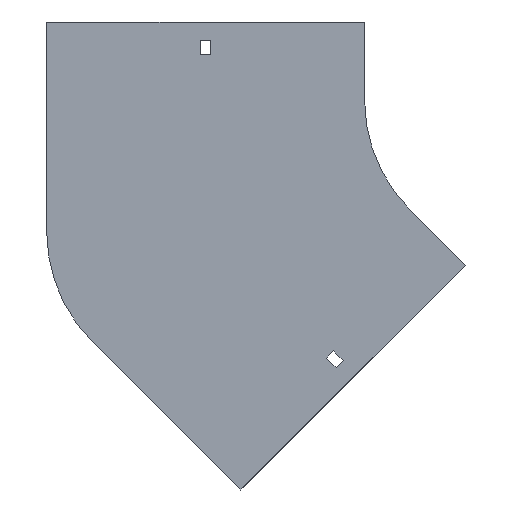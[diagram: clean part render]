
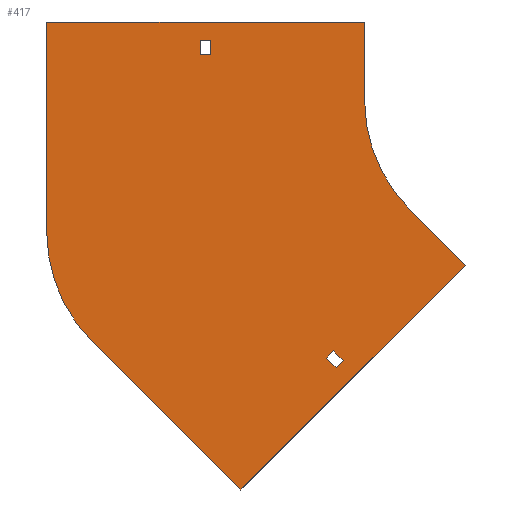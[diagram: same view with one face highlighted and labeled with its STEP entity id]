
A CAD part, front view. The second image highlights one B-rep face of the part: STEP entity #417.
In plain terms, the highlighted planar face has unit normal (0, -1, 0).
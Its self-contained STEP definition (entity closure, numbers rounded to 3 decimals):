
#1 = ORIENTED_EDGE ( 'NONE', *, *, #617, .F. ) ;
#26 = DIRECTION ( 'NONE',  ( 0., -1., 0. ) ) ;
#27 = DIRECTION ( 'NONE',  ( 1., 0., 0. ) ) ;
#33 = CIRCLE ( 'NONE', #501, 100. ) ;
#37 = EDGE_CURVE ( 'NONE', #536, #1381, #1002, .T. ) ;
#60 = DIRECTION ( 'NONE',  ( 0.707, 0., 0.707 ) ) ;
#84 = CARTESIAN_POINT ( 'NONE',  ( -304., 0., 50. ) ) ;
#117 = EDGE_CURVE ( 'NONE', #887, #536, #1345, .T. ) ;
#118 = EDGE_CURVE ( 'NONE', #267, #1157, #481, .T. ) ;
#130 = CARTESIAN_POINT ( 'NONE',  ( -179.605, 0., -250.316 ) ) ;
#143 = LINE ( 'NONE', #1032, #849 ) ;
#152 = ORIENTED_EDGE ( 'NONE', *, *, #631, .F. ) ;
#153 = CARTESIAN_POINT ( 'NONE',  ( -204., 0., -84.5 ) ) ;
#157 = EDGE_CURVE ( 'NONE', #956, #887, #1020, .T. ) ;
#160 = LINE ( 'NONE', #792, #272 ) ;
#186 = EDGE_CURVE ( 'NONE', #1157, #1109, #1230, .T. ) ;
#189 = CARTESIAN_POINT ( 'NONE',  ( -304., 0., -84.5 ) ) ;
#201 = ORIENTED_EDGE ( 'NONE', *, *, #1172, .F. ) ;
#204 = EDGE_CURVE ( 'NONE', #801, #1326, #592, .T. ) ;
#222 = VECTOR ( 'NONE', #823, 1000. ) ;
#231 = ORIENTED_EDGE ( 'NONE', *, *, #117, .T. ) ;
#237 = DIRECTION ( 'NONE',  ( 0.707, 0., -0.707 ) ) ;
#248 = VERTEX_POINT ( 'NONE', #1217 ) ;
#250 = CARTESIAN_POINT ( 'NONE',  ( 0., 0., 0. ) ) ;
#266 = EDGE_CURVE ( 'NONE', #717, #267, #1305, .T. ) ;
#267 = VERTEX_POINT ( 'NONE', #639 ) ;
#272 = VECTOR ( 'NONE', #1232, 1000. ) ;
#315 = VECTOR ( 'NONE', #237, 1000. ) ;
#339 = CARTESIAN_POINT ( 'NONE',  ( -304., 0., -84.5 ) ) ;
#358 = CARTESIAN_POINT ( 'NONE',  ( -205.25, 0., 38. ) ) ;
#364 = LINE ( 'NONE', #928, #571 ) ;
#393 = EDGE_CURVE ( 'NONE', #1109, #1114, #403, .T. ) ;
#403 = LINE ( 'NONE', #746, #315 ) ;
#405 = CARTESIAN_POINT ( 'NONE',  ( -113.667, 0., -167.408 ) ) ;
#417 = ADVANCED_FACE ( 'NONE', ( #439, #765, #996 ), #1108, .T. ) ;
#430 = CARTESIAN_POINT ( 'NONE',  ( -120.031, 0., -161.044 ) ) ;
#434 = CARTESIAN_POINT ( 'NONE',  ( 0., 0., 0. ) ) ;
#439 = FACE_BOUND ( 'NONE', #1046, .T. ) ;
#451 = VECTOR ( 'NONE', #633, 1000. ) ;
#454 = VERTEX_POINT ( 'NONE', #339 ) ;
#468 = DIRECTION ( 'NONE',  ( 0., -1., 0. ) ) ;
#471 = DIRECTION ( 'NONE',  ( 0., 0., 1. ) ) ;
#481 = LINE ( 'NONE', #697, #957 ) ;
#501 = AXIS2_PLACEMENT_3D ( 'NONE', #153, #1241, #471 ) ;
#510 = ORIENTED_EDGE ( 'NONE', *, *, #204, .F. ) ;
#516 = CARTESIAN_POINT ( 'NONE',  ( -100., 0., 0. ) ) ;
#520 = ORIENTED_EDGE ( 'NONE', *, *, #1284, .F. ) ;
#531 = CARTESIAN_POINT ( 'NONE',  ( -198.75, 0., 29. ) ) ;
#536 = VERTEX_POINT ( 'NONE', #707 ) ;
#538 = CARTESIAN_POINT ( 'NONE',  ( -198.75, 0., 29. ) ) ;
#554 = ORIENTED_EDGE ( 'NONE', *, *, #943, .F. ) ;
#571 = VECTOR ( 'NONE', #1363, 1000. ) ;
#572 = CARTESIAN_POINT ( 'NONE',  ( -205.25, 0., 29. ) ) ;
#592 = LINE ( 'NONE', #721, #1255 ) ;
#601 = EDGE_LOOP ( 'NONE', ( #612, #983, #554, #1116, #520, #741, #763, #833 ) ) ;
#609 = CARTESIAN_POINT ( 'NONE',  ( -70.711, 0., -70.711 ) ) ;
#610 = EDGE_CURVE ( 'NONE', #977, #248, #160, .T. ) ;
#612 = ORIENTED_EDGE ( 'NONE', *, *, #266, .F. ) ;
#617 = EDGE_CURVE ( 'NONE', #1326, #1223, #698, .T. ) ;
#631 = EDGE_CURVE ( 'NONE', #1223, #1169, #143, .T. ) ;
#633 = DIRECTION ( 'NONE',  ( -0.707, 0., -0.707 ) ) ;
#639 = CARTESIAN_POINT ( 'NONE',  ( -100., 0., 50. ) ) ;
#697 = CARTESIAN_POINT ( 'NONE',  ( -100., 0., 50. ) ) ;
#698 = LINE ( 'NONE', #1037, #1324 ) ;
#706 = CARTESIAN_POINT ( 'NONE',  ( -205.25, 0., 29. ) ) ;
#707 = CARTESIAN_POINT ( 'NONE',  ( -198.75, 0., 38. ) ) ;
#717 = VERTEX_POINT ( 'NONE', #84 ) ;
#721 = CARTESIAN_POINT ( 'NONE',  ( -124.628, 0., -165.64 ) ) ;
#741 = ORIENTED_EDGE ( 'NONE', *, *, #393, .F. ) ;
#746 = CARTESIAN_POINT ( 'NONE',  ( -70.711, 0., -70.711 ) ) ;
#760 = VECTOR ( 'NONE', #888, 1000. ) ;
#763 = ORIENTED_EDGE ( 'NONE', *, *, #186, .F. ) ;
#765 = FACE_OUTER_BOUND ( 'NONE', #601, .T. ) ;
#771 = EDGE_CURVE ( 'NONE', #454, #717, #946, .T. ) ;
#779 = DIRECTION ( 'NONE',  ( -1., 0., 0. ) ) ;
#788 = CARTESIAN_POINT ( 'NONE',  ( -124.628, 0., -165.64 ) ) ;
#789 = VECTOR ( 'NONE', #1154, 1000. ) ;
#792 = CARTESIAN_POINT ( 'NONE',  ( -179.605, 0., -250.316 ) ) ;
#801 = VERTEX_POINT ( 'NONE', #788 ) ;
#823 = DIRECTION ( 'NONE',  ( 0., 0., 1. ) ) ;
#833 = ORIENTED_EDGE ( 'NONE', *, *, #118, .F. ) ;
#840 = DIRECTION ( 'NONE',  ( 0.707, 0., -0.707 ) ) ;
#849 = VECTOR ( 'NONE', #1013, 1000. ) ;
#879 = DIRECTION ( 'NONE',  ( 0., 0., -1. ) ) ;
#887 = VERTEX_POINT ( 'NONE', #1006 ) ;
#888 = DIRECTION ( 'NONE',  ( 0., 0., 1. ) ) ;
#903 = EDGE_LOOP ( 'NONE', ( #1, #510, #201, #152 ) ) ;
#905 = VECTOR ( 'NONE', #962, 1000. ) ;
#915 = DIRECTION ( 'NONE',  ( 0., 0., -1. ) ) ;
#919 = CARTESIAN_POINT ( 'NONE',  ( -118.264, 0., -172.004 ) ) ;
#928 = CARTESIAN_POINT ( 'NONE',  ( -35.355, 0., -106.066 ) ) ;
#930 = DIRECTION ( 'NONE',  ( 0., 0., -1. ) ) ;
#943 = EDGE_CURVE ( 'NONE', #248, #454, #33, .T. ) ;
#946 = LINE ( 'NONE', #189, #760 ) ;
#956 = VERTEX_POINT ( 'NONE', #572 ) ;
#957 = VECTOR ( 'NONE', #930, 1000. ) ;
#962 = DIRECTION ( 'NONE',  ( 0., 0., -1. ) ) ;
#964 = EDGE_CURVE ( 'NONE', #1381, #956, #1330, .T. ) ;
#977 = VERTEX_POINT ( 'NONE', #130 ) ;
#983 = ORIENTED_EDGE ( 'NONE', *, *, #771, .F. ) ;
#993 = CARTESIAN_POINT ( 'NONE',  ( -304., 0., 50. ) ) ;
#996 = FACE_BOUND ( 'NONE', #903, .T. ) ;
#1002 = LINE ( 'NONE', #538, #905 ) ;
#1006 = CARTESIAN_POINT ( 'NONE',  ( -205.25, 0., 38. ) ) ;
#1013 = DIRECTION ( 'NONE',  ( -0.707, 0., 0.707 ) ) ;
#1020 = LINE ( 'NONE', #706, #222 ) ;
#1032 = CARTESIAN_POINT ( 'NONE',  ( -120.031, 0., -161.044 ) ) ;
#1037 = CARTESIAN_POINT ( 'NONE',  ( -118.264, 0., -172.004 ) ) ;
#1046 = EDGE_LOOP ( 'NONE', ( #1342, #231, #1347, #1329 ) ) ;
#1049 = VECTOR ( 'NONE', #27, 1000. ) ;
#1074 = AXIS2_PLACEMENT_3D ( 'NONE', #250, #468, #915 ) ;
#1108 = PLANE ( 'NONE',  #1374 ) ;
#1109 = VERTEX_POINT ( 'NONE', #609 ) ;
#1114 = VERTEX_POINT ( 'NONE', #1376 ) ;
#1116 = ORIENTED_EDGE ( 'NONE', *, *, #610, .F. ) ;
#1154 = DIRECTION ( 'NONE',  ( 1., 0., 0. ) ) ;
#1157 = VERTEX_POINT ( 'NONE', #516 ) ;
#1169 = VERTEX_POINT ( 'NONE', #430 ) ;
#1172 = EDGE_CURVE ( 'NONE', #1169, #801, #1405, .T. ) ;
#1192 = CARTESIAN_POINT ( 'NONE',  ( -124.628, 0., -165.64 ) ) ;
#1217 = CARTESIAN_POINT ( 'NONE',  ( -274.711, 0., -155.21 ) ) ;
#1223 = VERTEX_POINT ( 'NONE', #405 ) ;
#1230 = CIRCLE ( 'NONE', #1074, 100. ) ;
#1232 = DIRECTION ( 'NONE',  ( -0.707, 0., 0.707 ) ) ;
#1241 = DIRECTION ( 'NONE',  ( 0., 1., 0. ) ) ;
#1255 = VECTOR ( 'NONE', #840, 1000. ) ;
#1269 = VECTOR ( 'NONE', #779, 1000. ) ;
#1284 = EDGE_CURVE ( 'NONE', #1114, #977, #364, .T. ) ;
#1305 = LINE ( 'NONE', #993, #1049 ) ;
#1324 = VECTOR ( 'NONE', #60, 1000. ) ;
#1326 = VERTEX_POINT ( 'NONE', #919 ) ;
#1329 = ORIENTED_EDGE ( 'NONE', *, *, #964, .T. ) ;
#1330 = LINE ( 'NONE', #1355, #1269 ) ;
#1342 = ORIENTED_EDGE ( 'NONE', *, *, #157, .T. ) ;
#1345 = LINE ( 'NONE', #358, #789 ) ;
#1347 = ORIENTED_EDGE ( 'NONE', *, *, #37, .T. ) ;
#1355 = CARTESIAN_POINT ( 'NONE',  ( -205.25, 0., 29. ) ) ;
#1363 = DIRECTION ( 'NONE',  ( -0.707, 0., -0.707 ) ) ;
#1374 = AXIS2_PLACEMENT_3D ( 'NONE', #434, #26, #879 ) ;
#1376 = CARTESIAN_POINT ( 'NONE',  ( -35.355, 0., -106.066 ) ) ;
#1381 = VERTEX_POINT ( 'NONE', #531 ) ;
#1405 = LINE ( 'NONE', #1192, #451 ) ;
